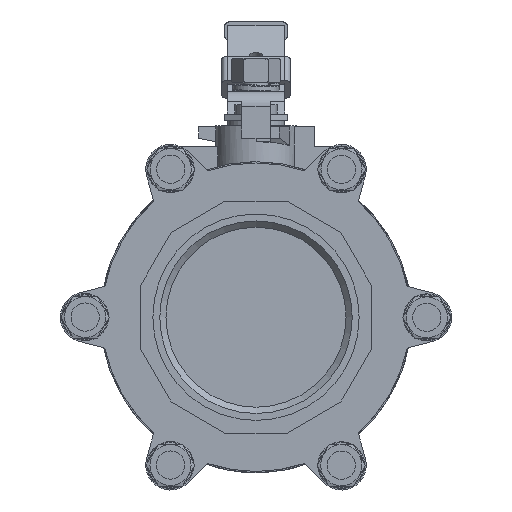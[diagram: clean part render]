
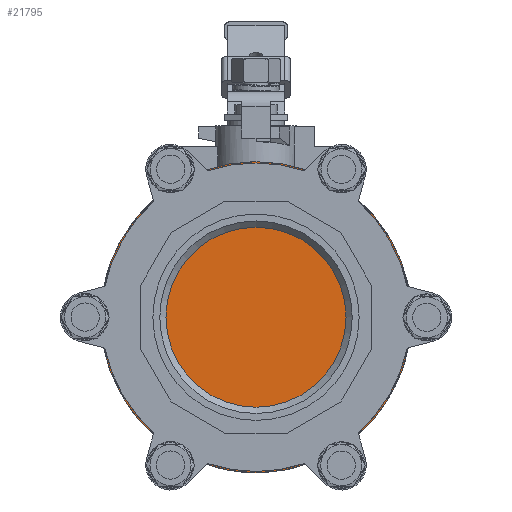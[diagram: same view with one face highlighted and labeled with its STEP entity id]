
A CAD part, left-side view. The second image highlights one B-rep face of the part: STEP entity #21795.
In plain terms, the highlighted planar face has unit normal (-1, 0, 0).
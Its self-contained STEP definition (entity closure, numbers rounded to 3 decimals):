
#16590 = CYLINDRICAL_SURFACE('',#16591,3.433);
#16591 = AXIS2_PLACEMENT_3D('',#16592,#16593,#16594);
#16592 = CARTESIAN_POINT('',(1.92,0.,2.558));
#16593 = DIRECTION('',(1.,0.,0.));
#16594 = DIRECTION('',(-0.,1.,0.));
#21707 = VERTEX_POINT('',#21708);
#21708 = CARTESIAN_POINT('',(1.92,3.433,2.558));
#21728 = EDGE_CURVE('',#21707,#21707,#21729,.T.);
#21729 = SURFACE_CURVE('',#21730,(#21735,#21742),.PCURVE_S1.);
#21730 = CIRCLE('',#21731,3.433);
#21731 = AXIS2_PLACEMENT_3D('',#21732,#21733,#21734);
#21732 = CARTESIAN_POINT('',(1.92,0.,2.558));
#21733 = DIRECTION('',(1.,0.,0.));
#21734 = DIRECTION('',(-0.,1.,0.));
#21735 = PCURVE('',#16590,#21736);
#21736 = DEFINITIONAL_REPRESENTATION('',(#21737),#21741);
#21737 = LINE('',#21738,#21739);
#21738 = CARTESIAN_POINT('',(0.,0.));
#21739 = VECTOR('',#21740,1.);
#21740 = DIRECTION('',(1.,0.));
#21741 = ( GEOMETRIC_REPRESENTATION_CONTEXT(2) 
PARAMETRIC_REPRESENTATION_CONTEXT() REPRESENTATION_CONTEXT('2D SPACE',''
  ) );
#21742 = PCURVE('',#21743,#21748);
#21743 = PLANE('',#21744);
#21744 = AXIS2_PLACEMENT_3D('',#21745,#21746,#21747);
#21745 = CARTESIAN_POINT('',(1.92,0.,2.558));
#21746 = DIRECTION('',(1.,0.,0.));
#21747 = DIRECTION('',(0.,0.,-1.));
#21748 = DEFINITIONAL_REPRESENTATION('',(#21749),#21753);
#21749 = CIRCLE('',#21750,3.433);
#21750 = AXIS2_PLACEMENT_2D('',#21751,#21752);
#21751 = CARTESIAN_POINT('',(0.,0.));
#21752 = DIRECTION('',(0.,1.));
#21753 = ( GEOMETRIC_REPRESENTATION_CONTEXT(2) 
PARAMETRIC_REPRESENTATION_CONTEXT() REPRESENTATION_CONTEXT('2D SPACE',''
  ) );
#21795 = ADVANCED_FACE('',(#21796),#21743,.F.);
#21796 = FACE_BOUND('',#21797,.T.);
#21797 = EDGE_LOOP('',(#21798));
#21798 = ORIENTED_EDGE('',*,*,#21728,.F.);
